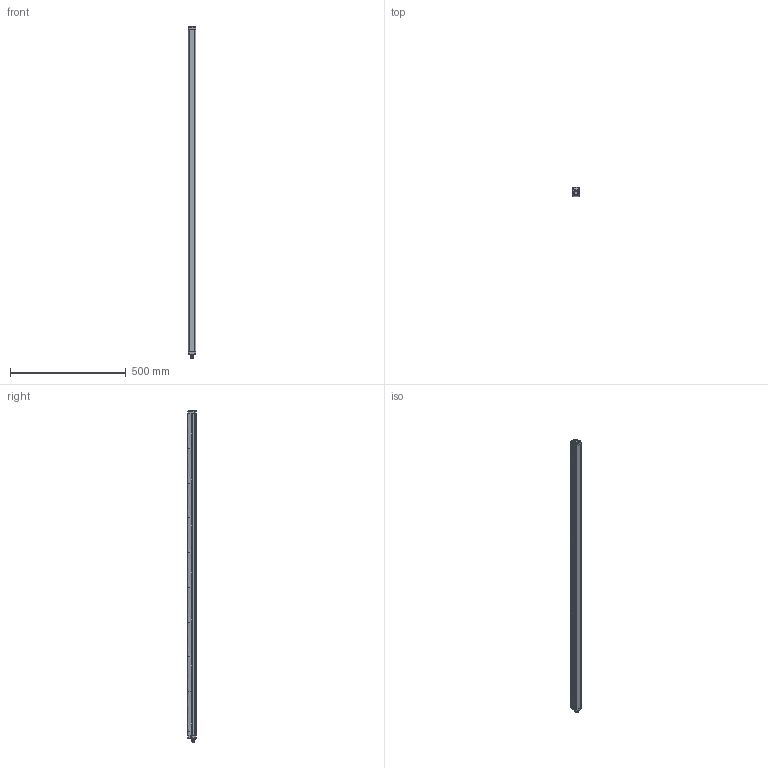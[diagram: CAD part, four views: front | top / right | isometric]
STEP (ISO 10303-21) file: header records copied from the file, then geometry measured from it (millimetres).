
FILE_DESCRIPTION(/* description */ (''),/* implementation_level */ '2;1');
FILE_NAME(/* name */ 'DSD-0165.stp',/* time_stamp */ '2020-07-16T16:17:39+02:00',/* author */ (''),/* organization */ (''),/* preprocessor_version */ 'ST-DEVELOPER v16.7',/* originating_system */ 'SIEMENS PLM Software NX 12.0',/* authorisation */ '');
FILE_SCHEMA (('AUTOMOTIVE_DESIGN { 1 0 10303 214 3 1 1 1 }'));
Products named in the file (1): MBra3A584E81k9ms
Bounding box: 32.3 x 36.9 x 1433.24 mm (x, y, z)
Volume: 1459299.8 mm3; surface area: 333888.7 mm2
Topology: 32 solids, 35 shells, 1654 faces, 3758 edges, 2123 vertices
Faces by surface type: cylinder 625, bspline 588, plane 378, cone 29, extrusion 24, sphere 10
Full cylindrical faces by diameter (mm): 1 x10, 1.5 x6, 2 x12, 2.05 x4, 2.5 x12, 2.7 x10, 2.9 x6, 3 x24, 3.4 x6, 3.6 x12, 4.7 x2, 5 x10, 5.3 x2, 7.5 x1, 8 x1, 8.2 x1, 9.3 x1, 9.5 x1, 9.55 x1, 10.5 x1, 11 x2, 12 x12, 13.97 x1, 14.3 x1, 16 x2
Entity records: 59113 total; most frequent: CARTESIAN_POINT 24545, DIRECTION 6987, ORIENTED_EDGE 6876, EDGE_CURVE 3438, AXIS2_PLACEMENT_3D 2910, VERTEX_POINT 2117, EDGE_LOOP 1975, CIRCLE 1823
